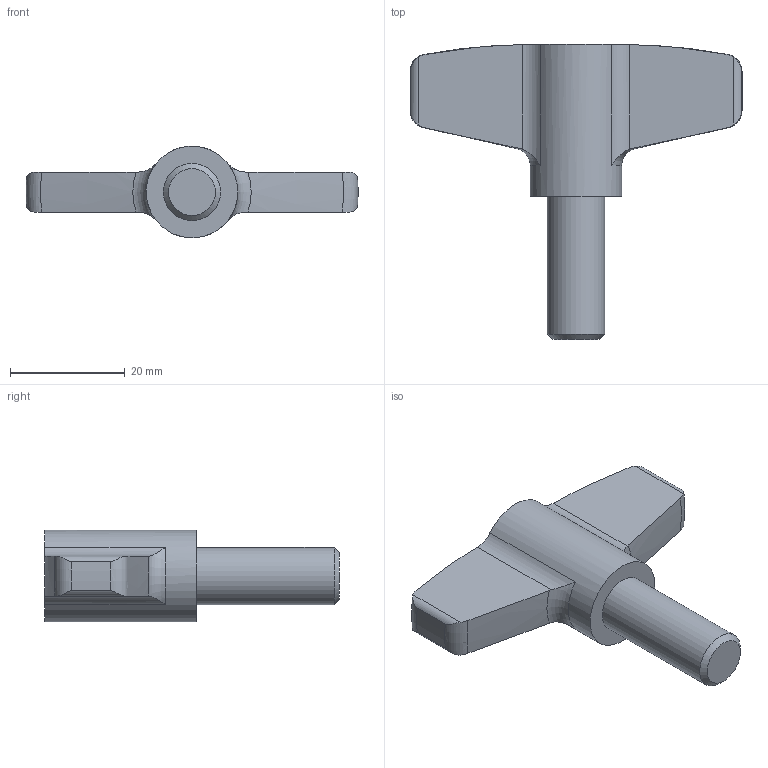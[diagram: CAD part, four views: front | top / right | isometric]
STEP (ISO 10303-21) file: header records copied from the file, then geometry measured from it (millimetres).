
FILE_DESCRIPTION( ( 'STEP AP203' ), '1' );
FILE_NAME( 'C:/Temp/Ganter_Step_05_03_2020/data/2_2/gn_835/Stainless Steel-Wing screw GN 835-58-M10-25-MT.stp', '2020-03-05T12:19:32', ( 'License CC BY-ND 4.0' ), ( 'CADENAS' ), ' ', 'PARTsolutions', ' ' );
FILE_SCHEMA( ( 'CONFIG_CONTROL_DESIGN' ) );
Length unit declared in the file: millimetre
Products named in the file (1): _Stainless Steel-Wing screw GN 835-58-M10-25-MT
Bounding box: 57.97 x 51.5 x 15.98 mm (x, y, z)
Volume: 11937.8 mm3; surface area: 4269.8 mm2
Topology: 1 solids, 1 shells, 30 faces, 76 edges, 49 vertices
Faces by surface type: cylinder 12, plane 7, torus 6, cone 3, bspline 2
Full cylindrical faces by diameter (mm): 10 x1, 16 x1
Entity records: 1166 total; most frequent: CARTESIAN_POINT 477, ORIENTED_EDGE 144, DIRECTION 114, EDGE_CURVE 72, AXIS2_PLACEMENT_3D 49, VERTEX_POINT 48, B_SPLINE_CURVE_WITH_KNOTS 36, EDGE_LOOP 34
